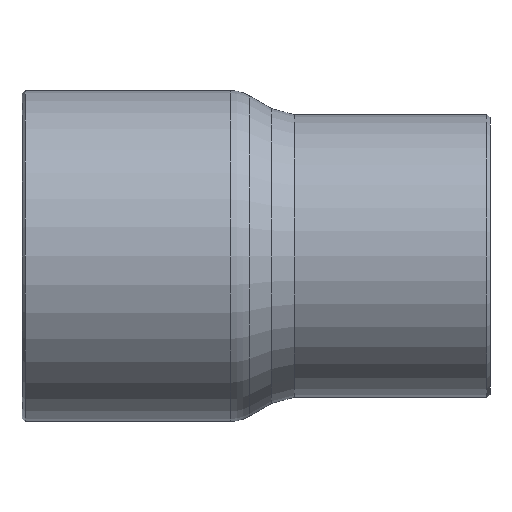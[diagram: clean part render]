
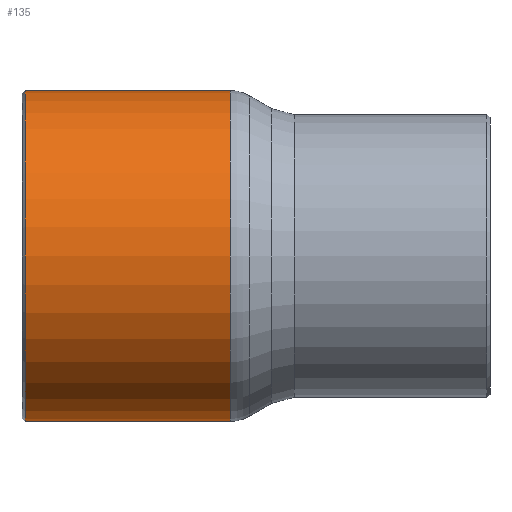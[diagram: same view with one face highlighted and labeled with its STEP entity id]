
A CAD part, front view. The second image highlights one B-rep face of the part: STEP entity #135.
In plain terms, the highlighted cylindrical face has radius 10.885 mm (diameter 21.77 mm), a full revolution.
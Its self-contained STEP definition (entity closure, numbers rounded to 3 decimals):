
#84=CARTESIAN_POINT('',(-19.3,10.885,0.));
#85=VERTEX_POINT('',#84);
#86=CARTESIAN_POINT('',(-19.3,0.0,0.0));
#87=DIRECTION('',(-1.0,0.0,0.0));
#88=DIRECTION('',(0.0,-1.0,0.0));
#89=AXIS2_PLACEMENT_3D('',#86,#87,#88);
#90=CIRCLE('',#89,10.885);
#91=EDGE_CURVE('',#85,#85,#90,.T.);
#116=CARTESIAN_POINT('',(-12.65,0.0,0.0));
#117=DIRECTION('',(1.0,0.0,0.0));
#118=DIRECTION('',(0.0,1.0,0.0));
#119=AXIS2_PLACEMENT_3D('',#116,#117,#118);
#120=CYLINDRICAL_SURFACE('',#119,10.885);
#121=CARTESIAN_POINT('',(-5.8,10.885,0.0));
#122=VERTEX_POINT('',#121);
#123=CARTESIAN_POINT('',(-5.8,0.0,0.0));
#124=DIRECTION('',(1.0,0.0,0.0));
#125=DIRECTION('',(0.0,1.0,0.0));
#126=AXIS2_PLACEMENT_3D('',#123,#124,#125);
#127=CIRCLE('',#126,10.885);
#128=EDGE_CURVE('',#122,#122,#127,.T.);
#129=ORIENTED_EDGE('',*,*,#128,.F.);
#130=EDGE_LOOP('',(#129));
#131=FACE_OUTER_BOUND('',#130,.T.);
#132=ORIENTED_EDGE('',*,*,#91,.F.);
#133=EDGE_LOOP('',(#132));
#134=FACE_BOUND('',#133,.T.);
#135=ADVANCED_FACE('',(#131,#134),#120,.T.);
